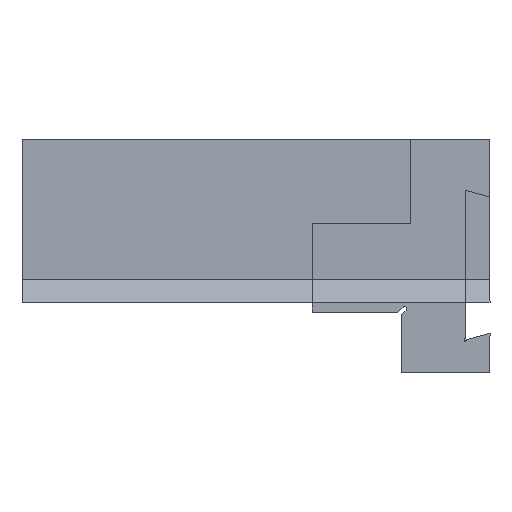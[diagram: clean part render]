
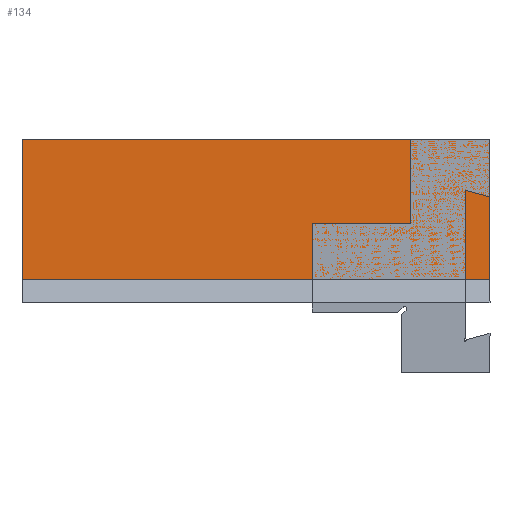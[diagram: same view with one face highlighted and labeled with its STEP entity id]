
A CAD part, front view. The second image highlights one B-rep face of the part: STEP entity #134.
In plain terms, the highlighted planar face has unit normal (0, 1, 0).
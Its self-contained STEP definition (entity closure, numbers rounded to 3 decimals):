
#134=ADVANCED_FACE('',(#186),#162,.T.);
#162=PLANE('',#789);
#186=FACE_OUTER_BOUND('',#244,.T.);
#244=EDGE_LOOP('',(#420,#421,#422,#423));
#420=ORIENTED_EDGE('',*,*,#580,.F.);
#421=ORIENTED_EDGE('',*,*,#581,.F.);
#422=ORIENTED_EDGE('',*,*,#582,.T.);
#423=ORIENTED_EDGE('',*,*,#583,.T.);
#492=VERTEX_POINT('',#1149);
#493=VERTEX_POINT('',#1150);
#494=VERTEX_POINT('',#1152);
#495=VERTEX_POINT('',#1154);
#580=EDGE_CURVE('',#492,#493,#650,.T.);
#581=EDGE_CURVE('',#494,#492,#651,.T.);
#582=EDGE_CURVE('',#494,#495,#652,.T.);
#583=EDGE_CURVE('',#495,#493,#653,.T.);
#650=LINE('',#1148,#720);
#651=LINE('',#1151,#721);
#652=LINE('',#1153,#722);
#653=LINE('',#1155,#723);
#720=VECTOR('',#959,1.);
#721=VECTOR('',#960,1.);
#722=VECTOR('',#961,1.);
#723=VECTOR('',#962,1.);
#789=AXIS2_PLACEMENT_3D('',#1156,#963,#964);
#959=DIRECTION('',(0.,0.,-1.));
#960=DIRECTION('',(-1.,0.,0.));
#961=DIRECTION('',(0.,0.,-1.));
#962=DIRECTION('',(-1.,0.,0.));
#963=DIRECTION('',(0.,1.,0.));
#964=DIRECTION('',(0.,0.,1.));
#1148=CARTESIAN_POINT('',(-62.,5.,50.));
#1149=CARTESIAN_POINT('',(-62.,5.,50.));
#1150=CARTESIAN_POINT('',(-62.,5.,20.));
#1151=CARTESIAN_POINT('',(38.,5.,50.));
#1152=CARTESIAN_POINT('',(38.,5.,50.));
#1153=CARTESIAN_POINT('',(38.,5.,50.));
#1154=CARTESIAN_POINT('',(38.,5.,20.));
#1155=CARTESIAN_POINT('',(38.,5.,20.));
#1156=CARTESIAN_POINT('',(38.,5.,50.));
